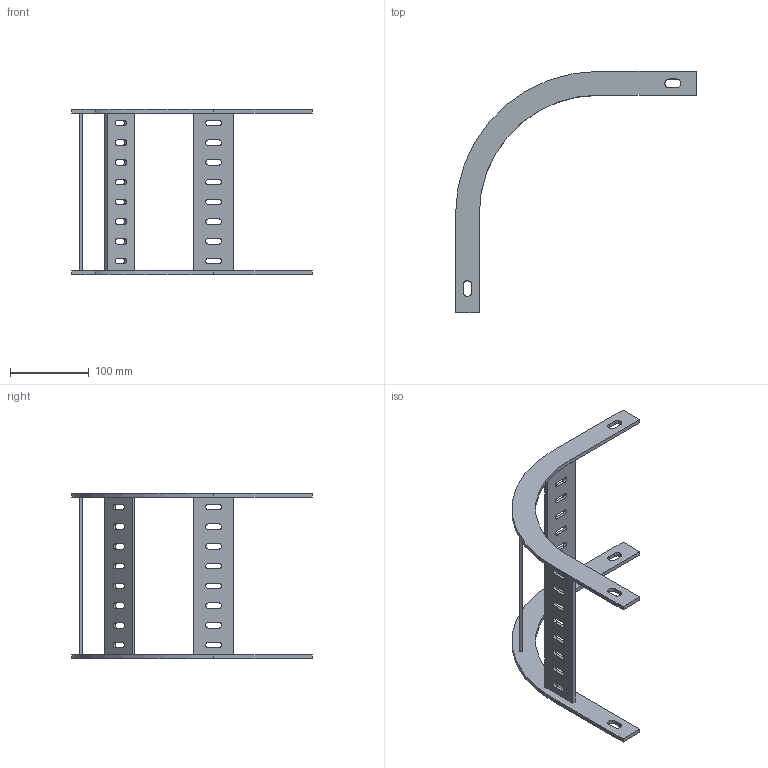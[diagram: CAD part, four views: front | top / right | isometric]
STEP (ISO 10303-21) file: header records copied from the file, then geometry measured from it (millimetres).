
FILE_DESCRIPTION(('Creo Elements/Direct Modeling STEP Export'),'2;1');
FILE_NAME('//pserver/office/EK/ME10-3D/3D-output/SLS 200F.stp','2020-03-10T15:13:31',(''),(''),'PTC Creo Elements/Direct Modeling STEP processor for AP214 (Solid Model)','PTC Creo Elements/Direct Modeling 19.0C 15-Aug-2015 (C) Parametric Technology GmbH','');
FILE_SCHEMA(('AUTOMOTIVE_DESIGN { 1 0 10303 214 1 1 1 1 }'));
Length unit declared in the file: millimetre
Products named in the file (1): SLS_200F
Bounding box: 305 x 305 x 210 mm (x, y, z)
Volume: 256443.2 mm3; surface area: 133376.2 mm2
Topology: 1 solids, 1 shells, 144 faces, 420 edges, 280 vertices
Faces by surface type: plane 84, cylinder 60
Entity records: 4926 total; most frequent: CARTESIAN_POINT 845, ORIENTED_EDGE 840, DIRECTION 830, EDGE_CURVE 420, VECTOR 300, LINE 300, VERTEX_POINT 280, AXIS2_PLACEMENT_3D 265
